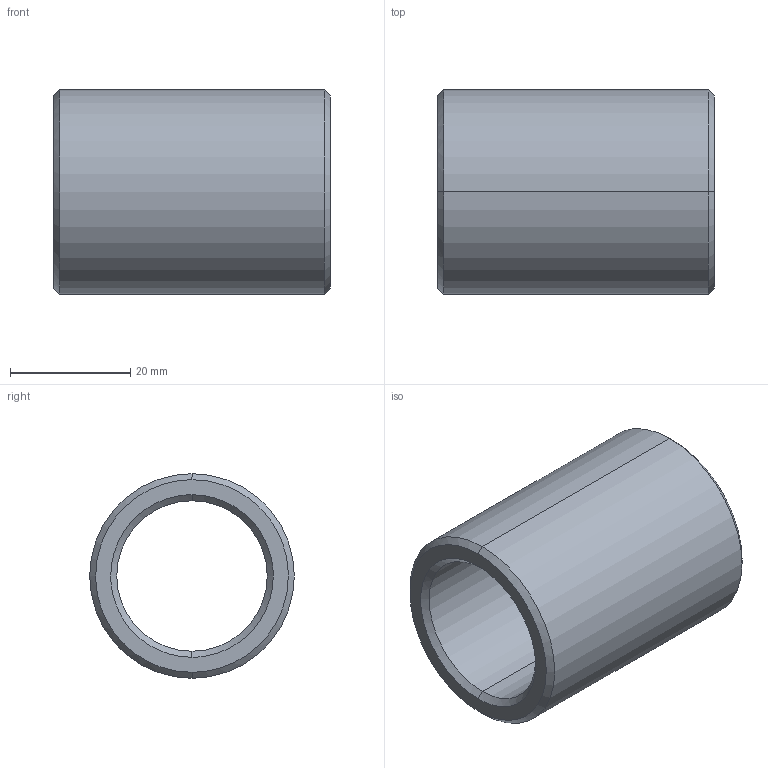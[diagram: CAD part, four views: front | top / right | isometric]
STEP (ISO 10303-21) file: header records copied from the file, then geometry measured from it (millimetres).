
FILE_DESCRIPTION(('CATIA V5 STEP Exchange'),'2;1');
FILE_NAME('C:\Users\Utente\Desktop\IO LAVORO\3D X SITO CF\X SITO\PLASTICA\352\352-25X46.stp','2021-04-15T06:11:05+00:00',('none'),('none'),'CATIA Version 5 Release 20 GA (IN-10)','CATIA V5 STEP AP203','none');
FILE_SCHEMA(('CONFIG_CONTROL_DESIGN'));
Length unit declared in the file: millimetre
Products named in the file (1): 352-25X46
Bounding box: 46 x 34 x 34 mm (x, y, z)
Volume: 19021.9 mm3; surface area: 9154.7 mm2
Topology: 1 solids, 1 shells, 14 faces, 44 edges, 32 vertices
Faces by surface type: cone 6, cylinder 4, plane 2, torus 2
Entity records: 634 total; most frequent: CARTESIAN_POINT 203, ORIENTED_EDGE 88, DIRECTION 64, EDGE_CURVE 44, AXIS2_PLACEMENT_3D 41, VERTEX_POINT 32, CIRCLE 26, EDGE_LOOP 16
